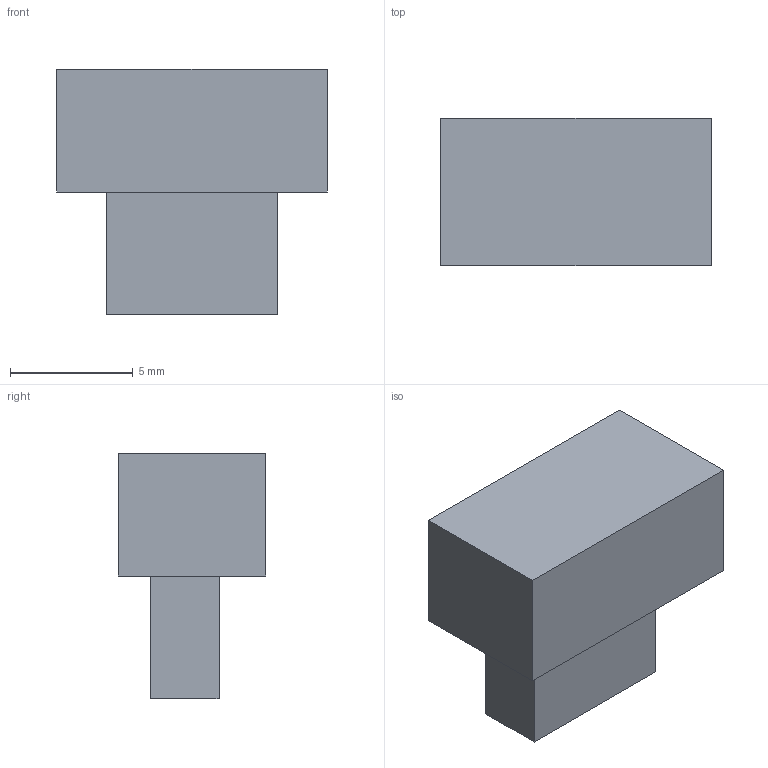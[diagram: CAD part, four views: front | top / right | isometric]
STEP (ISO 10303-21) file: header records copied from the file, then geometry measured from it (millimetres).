
FILE_DESCRIPTION (( 'STEP AP203' ), '1' );
FILE_NAME ('CAD_ChannelLine i end cap LR.STEP', '2020-06-23T08:17:26', ( '' ), ( '' ), 'SwSTEP 2.0', 'SolidWorks 2019', '' );
FILE_SCHEMA (( 'CONFIG_CONTROL_DESIGN' ));
Length unit declared in the file: millimetre
Products named in the file (1): CAD_ChannelLine i end cap LR
Bounding box: 11 x 6 x 10 mm (x, y, z)
Volume: 428 mm3; surface area: 400 mm2
Topology: 1 solids, 1 shells, 11 faces, 24 edges, 16 vertices
Faces by surface type: plane 11
Entity records: 375 total; most frequent: CARTESIAN_POINT 52, ORIENTED_EDGE 48, DIRECTION 48, LINE 24, EDGE_CURVE 24, VECTOR 24, VERTEX_POINT 16, AXIS2_PLACEMENT_3D 12
